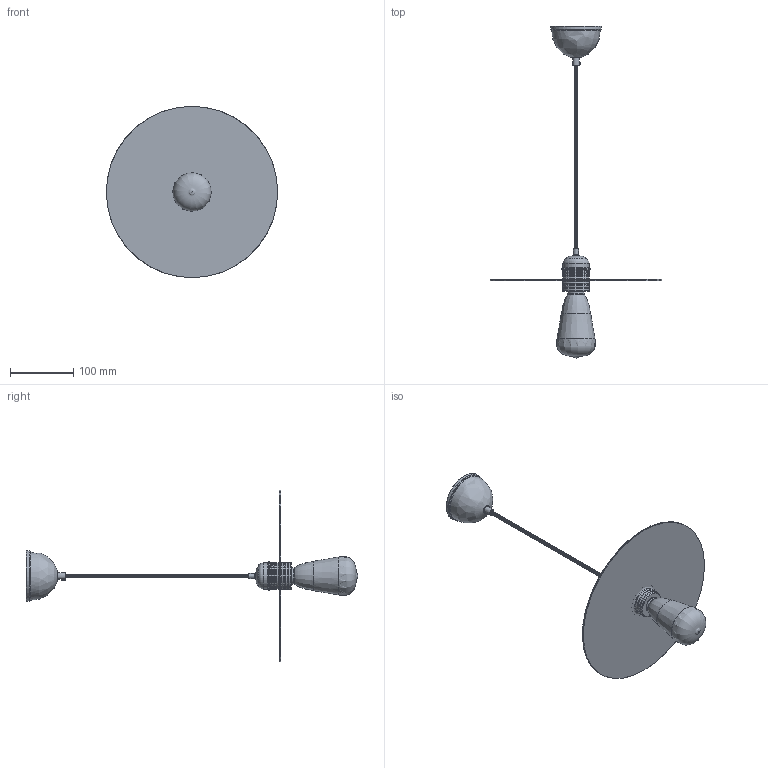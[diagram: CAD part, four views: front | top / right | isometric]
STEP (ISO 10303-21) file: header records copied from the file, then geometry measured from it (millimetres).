
FILE_DESCRIPTION(/* description */ (''),/* implementation_level */ '2;1');
FILE_NAME(/* name */ 'C:\Users\Dominika\Desktop\Modele CZARNY\ROCK\LAMPA ROCK.stp',/* time_stamp */ '2019-12-05T20:43:14+01:00',/* author */ ('Dominika'),/* organization */ (''),/* preprocessor_version */ 'ST-DEVELOPER v17',/* originating_system */ 'Autodesk Inventor 2019',/* authorisation */ '');
FILE_SCHEMA (('AUTOMOTIVE_DESIGN { 1 0 10303 214 3 1 1 }'));
Length unit declared in the file: millimetre
Products named in the file (13): LAMPA ROCK; ROCK mocowanie do sciany; ROCK mocowanie kabla; ROCK mocowanie klosza; ROCK talerz; lampadina-edison_MIR; filamenti_MIR; vetro-esterno_MIR; vetro-interno_MIR; vite_MIR; BLUES kabel II; BLUES kabel I; DIN 7985 (H) - M3,5x5-H
Assembly tree (311 placements, depth 3):
  LAMPA ROCK
    ROCK mocowanie do sciany
    ROCK mocowanie kabla
    ROCK mocowanie klosza
    ROCK talerz  x2
    lampadina-edison_MIR
      filamenti_MIR
      vetro-esterno_MIR
      vetro-interno_MIR
      vite_MIR
    BLUES kabel II  x150
    BLUES kabel I  x150
    DIN 7985 (H) - M3,5x5-H
Bounding box: 270 x 523.07 x 270 mm (x, y, z)
Volume: 231773.8 mm3; surface area: 324918.2 mm2
Topology: 313 solids, 313 shells, 1156 faces, 1595 edges, 1070 vertices
Faces by surface type: plane 707, cylinder 356, torus 44, cone 23, bspline 19, sphere 7
Full cylindrical faces by diameter (mm): 0.5 x20, 0.6 x8, 1.5 x4, 2.694 x1, 3.2 x1, 3.5 x1, 4 x1, 4.694 x1, 5 x300, 6 x1, 8 x1, 8.792 x1, 10 x1, 10.792 x1, 24 x1, 24.015 x1, 25.6 x1, 41 x6, 44.714 x1, 78 x1, 80 x1, 270 x2
Entity records: 15754 total; most frequent: CARTESIAN_POINT 6365, DIRECTION 2091, ORIENTED_EDGE 1358, AXIS2_PLACEMENT_3D 954, EDGE_CURVE 679, VERTEX_POINT 470, CIRCLE 369, PRODUCT_DEFINITION_SHAPE 324
